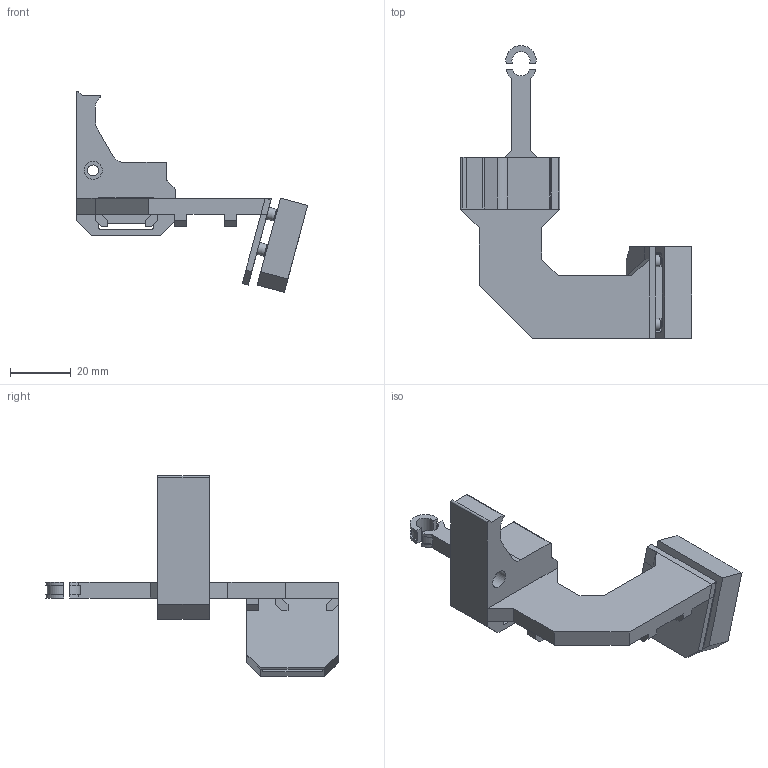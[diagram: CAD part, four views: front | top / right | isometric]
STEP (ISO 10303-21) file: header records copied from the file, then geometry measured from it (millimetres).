
FILE_DESCRIPTION(/* description */ (''),/* implementation_level */ '2;1');
FILE_NAME(/* name */ '/Users/scopalme/Library/Mobile Documents/com~apple~CloudDocs/3D Modeling/Printers/Prusa MK3S/Camera Bracket/MK3S_X-Axis_Bracket_Pi_Camera_Mount v5.step',/* time_stamp */ '2020-11-23T11:20:12-05:00',/* author */ (''),/* organization */ (''),/* preprocessor_version */ 'ST-DEVELOPER v18.1',/* originating_system */ 'Autodesk Translation Framework v9.3.0.1241',/* authorisation */ '');
FILE_SCHEMA (('AUTOMOTIVE_DESIGN { 1 0 10303 214 3 1 1 }'));
Length unit declared in the file: millimetre
Products named in the file (1): MK3S_X-Axis_Bracket_Pi_Camera_Mount
Bounding box: 76.31 x 96.57 x 66.27 mm (x, y, z)
Volume: 29710.3 mm3; surface area: 18073.4 mm2
Topology: 6 solids, 6 shells, 192 faces, 488 edges, 324 vertices
Faces by surface type: plane 146, cylinder 45, cone 1
Full cylindrical faces by diameter (mm): 1.9 x4, 2 x4, 3.6 x1, 4 x8, 6 x1
Entity records: 5800 total; most frequent: CARTESIAN_POINT 1005, ORIENTED_EDGE 976, DIRECTION 966, EDGE_CURVE 488, LINE 396, VECTOR 396, VERTEX_POINT 324, AXIS2_PLACEMENT_3D 285
